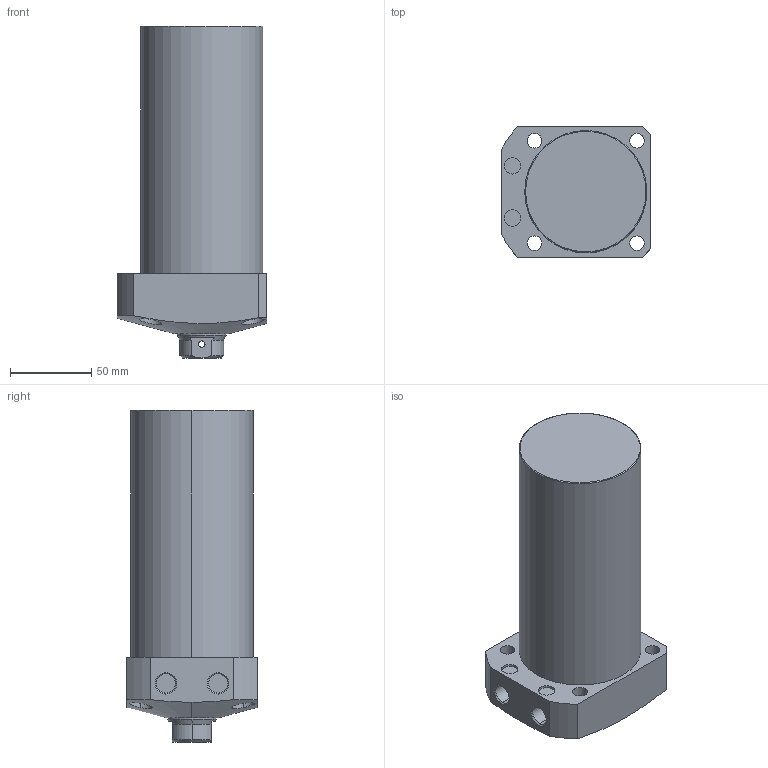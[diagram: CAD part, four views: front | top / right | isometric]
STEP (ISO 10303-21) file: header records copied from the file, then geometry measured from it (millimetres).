
FILE_DESCRIPTION (( 'STEP AP203' ), '1' );
FILE_NAME ('CLL-075CB-115.STEP', '2019-12-24T00:19:42', ( '' ), ( '' ), 'SwSTEP 2.0', 'SolidWorks 2015', '' );
FILE_SCHEMA (( 'CONFIG_CONTROL_DESIGN' ));
Length unit declared in the file: millimetre
Products named in the file (1): CLL-075CB-115
Bounding box: 92 x 80 x 204 mm (x, y, z)
Volume: 890445.9 mm3; surface area: 68227.3 mm2
Topology: 1 solids, 1 shells, 78 faces, 183 edges, 116 vertices
Faces by surface type: cylinder 39, plane 22, cone 15, torus 2
Entity records: 2862 total; most frequent: CARTESIAN_POINT 955, DIRECTION 396, ORIENTED_EDGE 362, EDGE_CURVE 181, AXIS2_PLACEMENT_3D 164, VERTEX_POINT 116, EDGE_LOOP 101, CIRCLE 85
